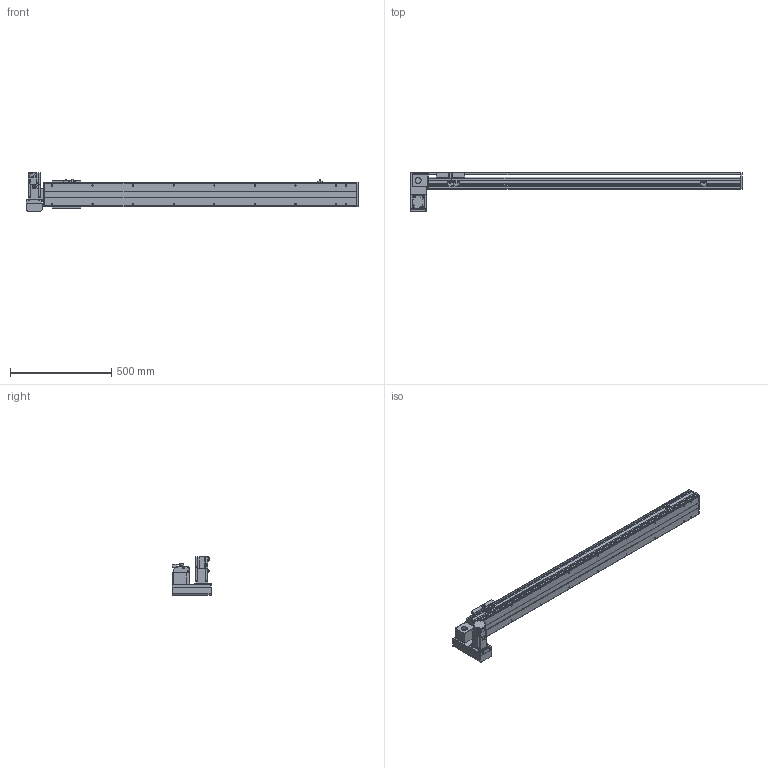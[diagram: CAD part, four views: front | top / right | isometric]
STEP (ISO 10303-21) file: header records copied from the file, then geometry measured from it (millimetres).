
FILE_DESCRIPTION( ( 'STEP AP214' ), '1' );
FILE_NAME( 'x:/temp/worker_27/temp/exporttempdir_6708_48_JhYAO/format_0/PBS120-P40-S1250-LD-T40-C1-N(0).stp', '2022-06-06T00:16:52', ( 'License CC BY-ND 4.0' ), ( 'CADENAS' ), ' ', 'PARTsolutions', ' ' );
FILE_SCHEMA( ( 'AUTOMOTIVE_DESIGN { 1 0 10303 214 1 1 1 1 }' ) );
Length unit declared in the file: millimetre
Products named in the file (7): PBS120-P40-S1250-LD-T40-C1-N(0); _PBS120-S1250()_body; _PBS120T-LD_motors; _T40-p1; _PBS120_sliser; _PBS120_plant; _PBS120_sensor
Assembly tree (8 placements, depth 2):
  PBS120-P40-S1250-LD-T40-C1-N(0)
    _PBS120-S1250()_body
    _PBS120T-LD_motors
    _T40-p1
    _PBS120_sliser
    _PBS120_plant
    _PBS120_sensor  x3
Bounding box: 1636 x 196 x 189.7 mm (x, y, z)
Volume: 6774822.7 mm3; surface area: 1343444.3 mm2
Topology: 8 solids, 8 shells, 834 faces, 2166 edges, 1393 vertices
Faces by surface type: plane 551, cylinder 231, cone 50, torus 2
Full cylindrical faces by diameter (mm): 2.459 x6, 3.242 x4, 4 x2, 4.134 x4, 4.5 x10, 4.917 x22, 5.5 x11, 6 x2, 6.6 x1, 7 x2, 8.5 x4, 9 x4, 12 x1, 14 x1, 30 x2, 40 x1, 50 x2
Entity records: 27492 total; most frequent: DIRECTION 3764, CARTESIAN_POINT 3695, ORIENTED_EDGE 3514, EDGE_CURVE 1757, AXIS2_PLACEMENT_3D 1268, LINE 1228, VECTOR 1228, VERTEX_POINT 1199
